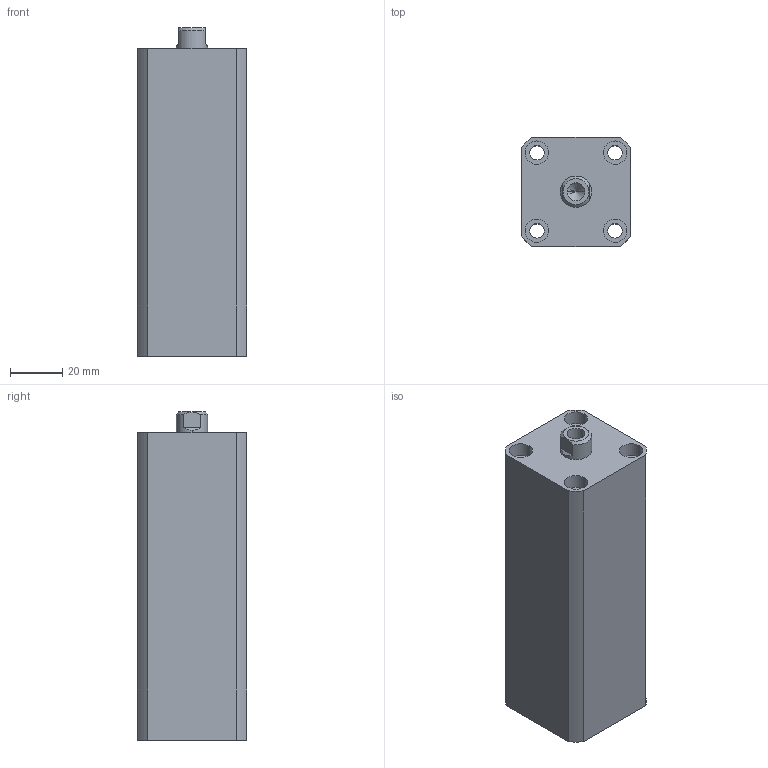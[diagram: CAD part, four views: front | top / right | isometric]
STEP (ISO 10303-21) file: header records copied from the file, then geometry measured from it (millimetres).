
FILE_DESCRIPTION (( 'STEP AP203' ), '1' );
FILE_NAME ('HTB-SDMB20-75N.STEP', '2019-10-09T00:09:17', ( '微软用户' ), ( '微软中国' ), 'SwSTEP 2.0', 'SolidWorks 2012', '' );
FILE_SCHEMA (( 'CONFIG_CONTROL_DESIGN' ));
Length unit declared in the file: millimetre
Products named in the file (3): HTB-SDMB20-75N; HTB-SDMB20-75N活塞杆; HTB-SDMB20-75掛极
Assembly tree (2 placements, depth 2):
  HTB-SDMB20-75N
    HTB-SDMB20-75掛极
    HTB-SDMB20-75N活塞杆
Bounding box: 42 x 42 x 126 mm (x, y, z)
Volume: 176195.5 mm3; surface area: 43479.7 mm2
Topology: 2 solids, 2 shells, 136 faces, 326 edges, 213 vertices
Faces by surface type: plane 64, cylinder 46, bspline 16, torus 6, cone 4
Entity records: 5023 total; most frequent: CARTESIAN_POINT 1570, ORIENTED_EDGE 648, DIRECTION 640, EDGE_CURVE 324, AXIS2_PLACEMENT_3D 231, VERTEX_POINT 213, LINE 178, VECTOR 178
